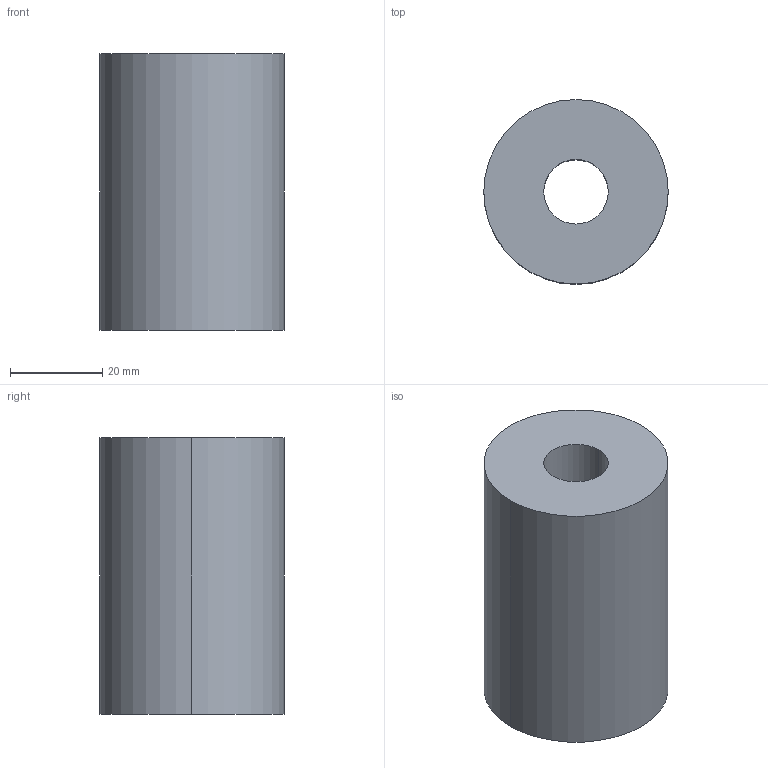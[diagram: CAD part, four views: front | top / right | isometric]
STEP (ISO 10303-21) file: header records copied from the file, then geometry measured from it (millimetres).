
FILE_DESCRIPTION(/* description */ (''),/* implementation_level */ '2;1');
FILE_NAME(/* name */ '3d_pa40-60_04911_r00.stp',/* time_stamp */ '2011-01-10T14:11:58+09:00',/* author */ ('MISUMI'),/* organization */ (''),/* preprocessor_version */ 'ST-DEVELOPER v11',/* originating_system */ 'UGS - NX 5.0',/* authorisation */ '');
FILE_SCHEMA (('CONFIG_CONTROL_DESIGN'));
Length unit declared in the file: millimetre
Products named in the file (1): 3d_pa40-60_04911_r00
Bounding box: 40 x 40 x 60 mm (x, y, z)
Volume: 66161.9 mm3; surface area: 12384.2 mm2
Topology: 1 solids, 1 shells, 6 faces, 12 edges, 8 vertices
Faces by surface type: cylinder 4, plane 2
Entity records: 254 total; most frequent: DIRECTION 34, CARTESIAN_POINT 27, ORIENTED_EDGE 24, AXIS2_PLACEMENT_3D 15, EDGE_CURVE 12, EDGE_LOOP 8, VERTEX_POINT 8, CIRCLE 8
